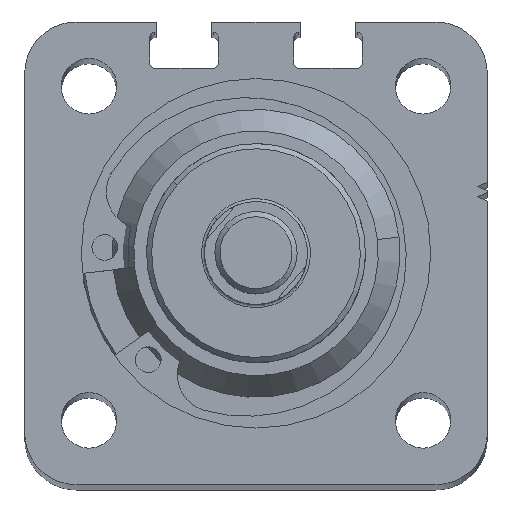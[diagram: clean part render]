
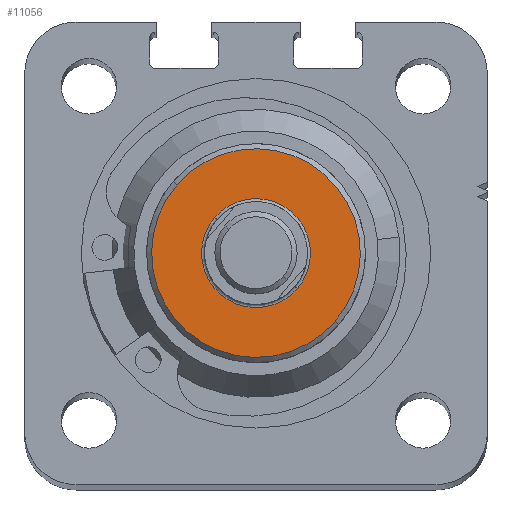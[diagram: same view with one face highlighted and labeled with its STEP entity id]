
A CAD part, top view. The second image highlights one B-rep face of the part: STEP entity #11056.
In plain terms, the highlighted planar face has unit normal (0, 0, 1).
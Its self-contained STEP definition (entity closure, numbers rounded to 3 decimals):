
#955 = CARTESIAN_POINT ( 'NONE',  ( 17.888, 1.527, 444.8 ) ) ;
#2413 = DIRECTION ( 'NONE',  ( 0.758, -0.653, 0. ) ) ;
#2779 = AXIS2_PLACEMENT_3D ( 'NONE', #7928, #19055, #7717 ) ;
#3802 = CARTESIAN_POINT ( 'NONE',  ( 13.872, 4.985, 444.8 ) ) ;
#4564 = ORIENTED_EDGE ( 'NONE', *, *, #7669, .T. ) ;
#4796 = CARTESIAN_POINT ( 'NONE',  ( 17.888, 1.527, 444.8 ) ) ;
#4900 = CARTESIAN_POINT ( 'NONE',  ( 10.197, 8.15, 444.8 ) ) ;
#5186 = ORIENTED_EDGE ( 'NONE', *, *, #16493, .T. ) ;
#5310 = VERTEX_POINT ( 'NONE', #3802 ) ;
#5686 = CIRCLE ( 'NONE', #19783, 5.3 ) ;
#6680 = CARTESIAN_POINT ( 'NONE',  ( 17.888, 1.527, 444.8 ) ) ;
#6807 = DIRECTION ( 'NONE',  ( 0., 0., -1. ) ) ;
#6940 = ORIENTED_EDGE ( 'NONE', *, *, #8076, .T. ) ;
#7007 = AXIS2_PLACEMENT_3D ( 'NONE', #955, #13661, #2413 ) ;
#7570 = AXIS2_PLACEMENT_3D ( 'NONE', #4796, #7667, #18865 ) ;
#7667 = DIRECTION ( 'NONE',  ( 0., 0., 1. ) ) ;
#7669 = EDGE_CURVE ( 'NONE', #16776, #19846, #17302, .T. ) ;
#7717 = DIRECTION ( 'NONE',  ( 0.758, -0.653, 0. ) ) ;
#7883 = CARTESIAN_POINT ( 'NONE',  ( 17.888, 1.527, 444.8 ) ) ;
#7928 = CARTESIAN_POINT ( 'NONE',  ( 17.888, 1.527, 444.8 ) ) ;
#8076 = EDGE_CURVE ( 'NONE', #19846, #16776, #17040, .T. ) ;
#11056 = ADVANCED_FACE ( 'NONE', ( #17646, #19187 ), #20526, .F. ) ;
#11144 = DIRECTION ( 'NONE',  ( 0., 0., -1. ) ) ;
#13661 = DIRECTION ( 'NONE',  ( 0., 0., -1. ) ) ;
#14041 = CARTESIAN_POINT ( 'NONE',  ( 21.905, -1.931, 444.8 ) ) ;
#15523 = CIRCLE ( 'NONE', #7007, 5.3 ) ;
#16098 = ORIENTED_EDGE ( 'NONE', *, *, #19735, .T. ) ;
#16493 = EDGE_CURVE ( 'NONE', #17064, #5310, #15523, .T. ) ;
#16776 = VERTEX_POINT ( 'NONE', #4900 ) ;
#17040 = CIRCLE ( 'NONE', #2779, 10.15 ) ;
#17064 = VERTEX_POINT ( 'NONE', #14041 ) ;
#17302 = CIRCLE ( 'NONE', #7570, 10.15 ) ;
#17369 = DIRECTION ( 'NONE',  ( 0.758, -0.653, 0. ) ) ;
#17646 = FACE_BOUND ( 'NONE', #18506, .T. ) ;
#17771 = DIRECTION ( 'NONE',  ( 0.758, -0.653, 0. ) ) ;
#18113 = CARTESIAN_POINT ( 'NONE',  ( 25.58, -5.096, 444.8 ) ) ;
#18506 = EDGE_LOOP ( 'NONE', ( #5186, #16098 ) ) ;
#18865 = DIRECTION ( 'NONE',  ( 0.758, -0.653, 0. ) ) ;
#19055 = DIRECTION ( 'NONE',  ( 0., 0., 1. ) ) ;
#19187 = FACE_OUTER_BOUND ( 'NONE', #19403, .T. ) ;
#19403 = EDGE_LOOP ( 'NONE', ( #6940, #4564 ) ) ;
#19691 = AXIS2_PLACEMENT_3D ( 'NONE', #7883, #11144, #17369 ) ;
#19735 = EDGE_CURVE ( 'NONE', #5310, #17064, #5686, .T. ) ;
#19783 = AXIS2_PLACEMENT_3D ( 'NONE', #6680, #6807, #17771 ) ;
#19846 = VERTEX_POINT ( 'NONE', #18113 ) ;
#20526 = PLANE ( 'NONE',  #19691 ) ;
